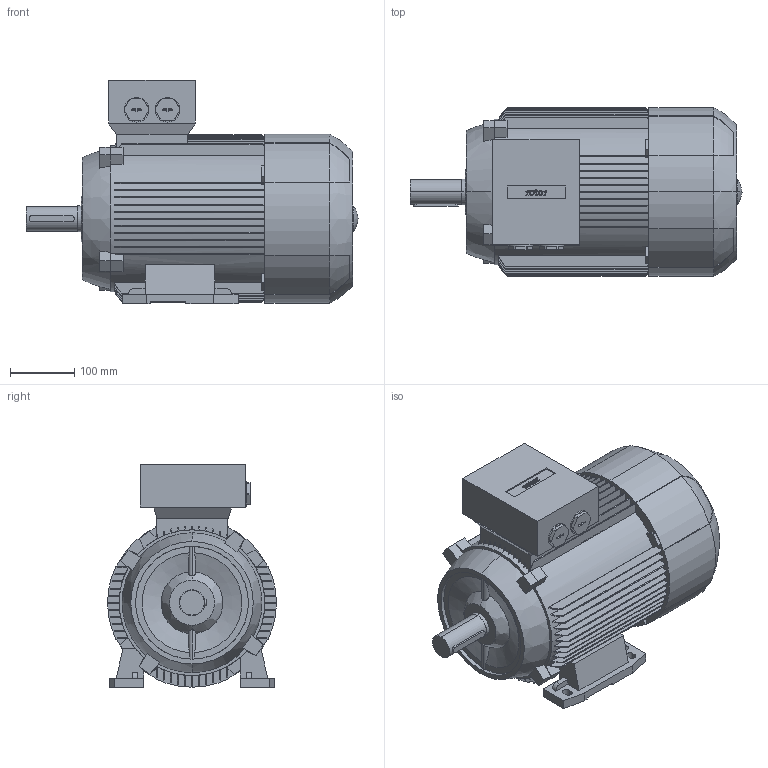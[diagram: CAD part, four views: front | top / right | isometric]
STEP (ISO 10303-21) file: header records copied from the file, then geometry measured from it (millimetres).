
FILE_DESCRIPTION (( 'STEP AP214' ), '1' );
FILE_NAME ('6RN132S02E31 IM1001.STEP', '2014-09-16T06:45:11', ( 'rbc_ict' ), ( 'REGAL' ), 'SwSTEP 2.0', 'SolidWorks 2012', '' );
FILE_SCHEMA (( 'AUTOMOTIVE_DESIGN' ));
Length unit declared in the file: millimetre
Products named in the file (1): 6RN132S02E31 IM1001
Bounding box: 515 x 262 x 347 mm (x, y, z)
Volume: 20863693.6 mm3; surface area: 854859.7 mm2
Topology: 1 solids, 1 shells, 628 faces, 1798 edges, 1192 vertices
Faces by surface type: plane 361, bspline 152, cylinder 109, cone 6
Entity records: 25259 total; most frequent: CARTESIAN_POINT 9821, ORIENTED_EDGE 3592, DIRECTION 2691, EDGE_CURVE 1796, VERTEX_POINT 1192, LINE 1039, VECTOR 1039, AXIS2_PLACEMENT_3D 826
